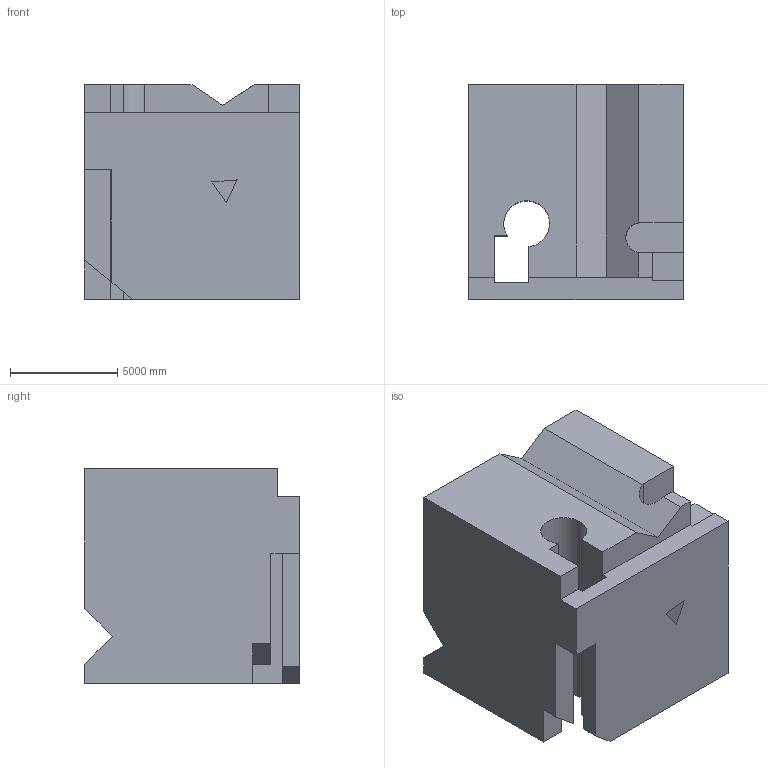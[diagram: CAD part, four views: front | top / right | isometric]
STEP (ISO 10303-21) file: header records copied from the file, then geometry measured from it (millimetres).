
FILE_DESCRIPTION (( 'STEP AP203' ), '1' );
FILE_NAME ('976.STEP', '2022-07-29T14:52:22', ( 'user' ), ( '' ), 'SwSTEP 2.0', 'SolidWorks 2021', '' );
FILE_SCHEMA (( 'CONFIG_CONTROL_DESIGN' ));
Length unit declared in the file: centimetre
Products named in the file (1): 976
Bounding box: 10000 x 10000 x 10000 mm (x, y, z)
Volume: 842498919694.8 mm3; surface area: 753460065.9 mm2
Topology: 1 solids, 1 shells, 40 faces, 117 edges, 78 vertices
Faces by surface type: plane 36, cylinder 4
Entity records: 1391 total; most frequent: CARTESIAN_POINT 239, ORIENTED_EDGE 234, DIRECTION 207, EDGE_CURVE 117, LINE 107, VECTOR 107, VERTEX_POINT 78, AXIS2_PLACEMENT_3D 50
